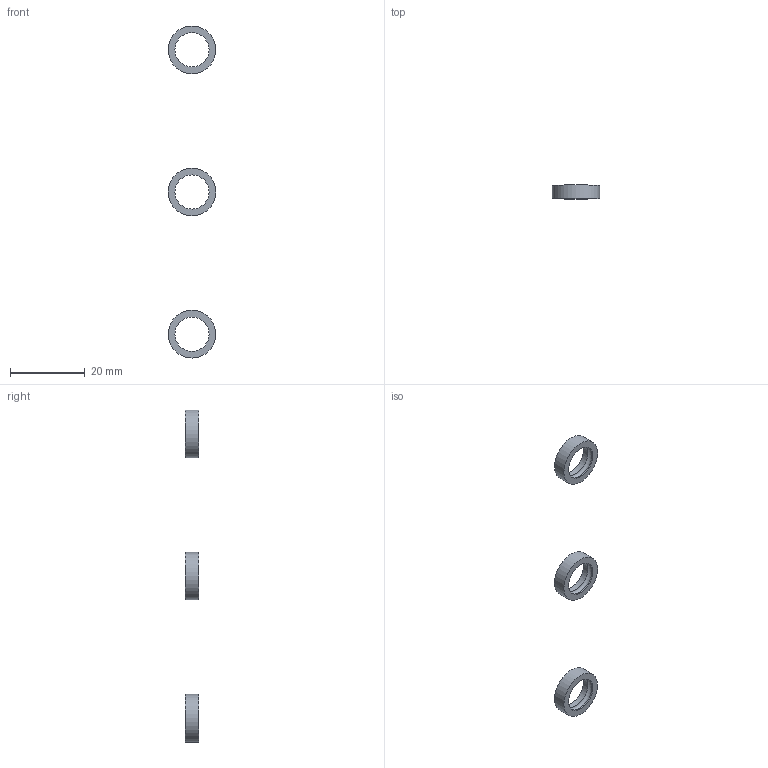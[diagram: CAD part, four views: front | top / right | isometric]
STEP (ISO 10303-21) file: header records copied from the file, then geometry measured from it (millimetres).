
FILE_DESCRIPTION(/* description */ (''),/* implementation_level */ '2;1');
FILE_NAME(/* name */ '/Users/laragrant/Documents/3d prints/snapFabric/wovens/femaleSnap3.step',/* time_stamp */ '2016-07-12T18:25:00-04:00',/* author */ (''),/* organization */ (''),/* preprocessor_version */ 'ST-DEVELOPER v16.5',/* originating_system */ 'Autodesk Translation Framework v5.1.0.3141',/* authorisation */ '');
FILE_SCHEMA (('AUTOMOTIVE_DESIGN { 1 0 10303 214 3 1 1 }'));
Length unit declared in the file: centimetre
Products named in the file (1): femaleSnap3 v0
Bounding box: 12.78 x 3.6 x 88.98 mm (x, y, z)
Volume: 598.7 mm3; surface area: 1196.6 mm2
Topology: 3 solids, 3 shells, 18 faces, 30 edges, 18 vertices
Faces by surface type: cylinder 9, plane 6, torus 3
Full cylindrical faces by diameter (mm): 9.18 x6, 12.78 x3
Entity records: 398 total; most frequent: DIRECTION 74, CARTESIAN_POINT 55, AXIS2_PLACEMENT_3D 37, EDGE_LOOP 36, ORIENTED_EDGE 36, FACE_BOUND 18, FACE_OUTER_BOUND 18, CIRCLE 18
